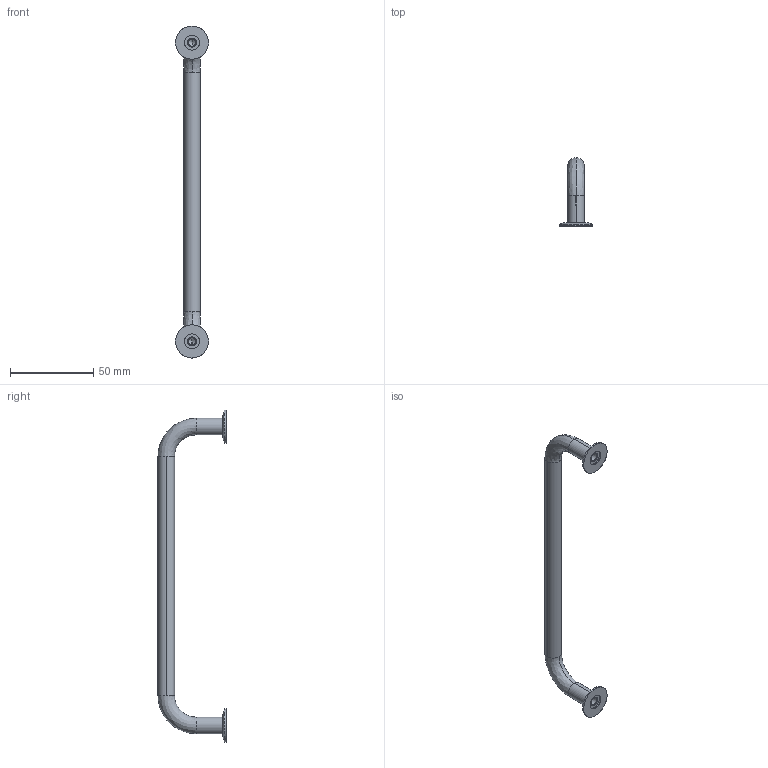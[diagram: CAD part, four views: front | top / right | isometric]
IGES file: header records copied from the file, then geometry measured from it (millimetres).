
Start section: SolidWorks IGES file using analytic representation for surfaces
Global section: file name: C:\Documents and Settings\IANO\Desktop\Temp File\Process pending\PCN pending\78700_v2\78700_v2_20170116_IGES\78700.W0518.igs; native system: SolidWorks 2009; preprocessor: SolidWorks 2009; author: IANO; date: 170310.095912; units: millimetre
Bounding box: 20 x 41 x 200 mm (x, y, z)
Surface area: 9090.7 mm2 (no closed solid volume)
Topology: 0 solids, 0 shells, 52 faces, 816 edges, 812 vertices
Faces by surface type: revolution 38, bspline 14
